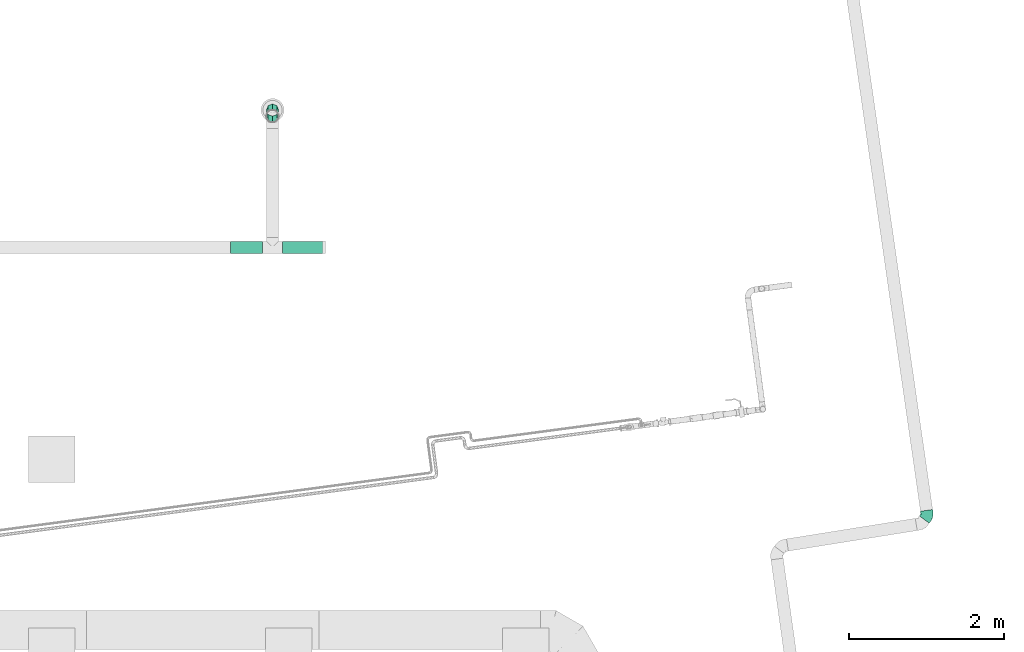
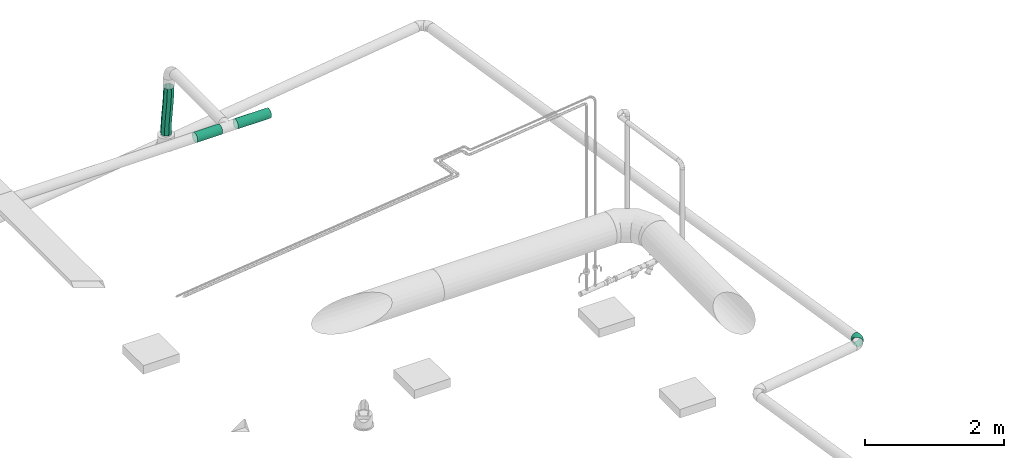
# One storey, part 335 of 374: 3 flow segments, 1 flow fitting.
"""IFC2X3 building model written with IfcOpenShell, lengths in metres."""

from ifc_helpers import new_model, si_unit, direction, origin, place, context, subcontext, project, spatial, open_shell, surface_model, source, transform, mapped, element, save


model = new_model("IFC2X3")

# Units and contexts
model_context = context("Model", 3, precision=1e-05, world=origin(), true_north=direction((-0.4480736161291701, 0.8939966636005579)))
body_context = subcontext(model_context, "Body", "Model", "MODEL_VIEW")
ifc_project = project(units=[si_unit("LENGTHUNIT", "METRE"), si_unit("AREAUNIT", "SQUARE_METRE"), si_unit("VOLUMEUNIT", "CUBIC_METRE"), si_unit("PLANEANGLEUNIT", "RADIAN"), si_unit("THERMODYNAMICTEMPERATUREUNIT", "KELVIN"), si_unit("MASSUNIT", "GRAM", prefix="KILO"), si_unit("TIMEUNIT", "SECOND")], contexts=[model_context])

# Site, building, storey
site_placement = place(None, origin())
site = spatial("IfcSite", under=ifc_project, at=site_placement, Name="Site 1", CompositionType="ELEMENT")
building_placement = place(site_placement, origin())
building = spatial("IfcBuilding", under=site, at=building_placement, Name="Undefined", CompositionType="ELEMENT")
storey_placement = place(building_placement, origin())
storey = spatial("IfcBuildingStorey", under=building, at=storey_placement, Name="Rez de chauss\x8ee", CompositionType="ELEMENT", Elevation=0.0)

# Flow fitting
shared_shape_1 = source(origin(), body_context, "Body", "SurfaceModel", [
    surface_model("IfcFaceBasedSurfaceModel", [(0.0, 0.020884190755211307, 0.0), (0.0, 0.0, 0.0), (0.03310000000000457, 8.8817842e-16, 0.0), (0.03310000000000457, 0.02088419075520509, -4.4408921e-16), (0.0, -0.020172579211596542, -0.005405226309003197), (0.03310000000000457, -0.020172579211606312, -0.005405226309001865), (0.0, -0.03825881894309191, -0.015847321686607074), (0.03309999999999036, -0.03825881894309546, -0.015847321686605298), (0.0, -0.05302617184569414, -0.0306146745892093), (0.03310000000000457, -0.05302617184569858, -0.030614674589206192), (0.0, -0.06346826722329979, -0.04870091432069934), (0.03309999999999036, -0.06346826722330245, -0.048700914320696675), (0.0, -0.06887349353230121, -0.06887349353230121), (0.03310000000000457, -0.06887349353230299, -0.06887349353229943), (0.0, -0.06887349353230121, -0.08975768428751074), (0.03310000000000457, -0.06887349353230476, -0.08975768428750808), (0.0, -0.06346826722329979, -0.10993026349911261), (0.03310000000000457, -0.06346826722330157, -0.10993026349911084), (0.0, -0.05302617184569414, -0.12801650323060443), (0.03309999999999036, -0.053026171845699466, -0.12801650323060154), (0.0, -0.038258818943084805, -0.14278385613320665), (0.03310000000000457, -0.038258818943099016, -0.1427838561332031), (0.0, -0.020172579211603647, -0.15322595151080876), (0.03309999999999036, -0.0201725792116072, -0.15322595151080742), (0.0, 7.105427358e-15, -0.15863117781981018), (0.03310000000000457, -5.329070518e-15, -0.15863117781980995), (0.0, 0.020884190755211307, -0.15863117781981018), (0.03310000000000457, 0.020884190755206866, -0.15863117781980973), (0.0, 0.04105676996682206, -0.15322595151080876), (0.03310000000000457, 0.04105676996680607, -0.15322595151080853), (0.0, 0.05914300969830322, -0.1427838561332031), (0.03310000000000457, 0.05914300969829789, -0.14278385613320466), (0.0, 0.07391036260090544, -0.12801650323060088), (0.03309999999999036, 0.07391036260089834, -0.12801650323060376), (0.0, 0.0843524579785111, -0.10993026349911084), (0.03310000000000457, 0.08435245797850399, -0.10993026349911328), (0.0, 0.08975768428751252, -0.08975768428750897), (0.03310000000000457, 0.08975768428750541, -0.08975768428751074), (0.0, 0.08975768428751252, -0.06887349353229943), (0.03309999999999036, 0.08975768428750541, -0.0688734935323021), (0.0, 0.0843524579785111, -0.048700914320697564), (0.03310000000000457, 0.08435245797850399, -0.04870091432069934), (0.0, 0.07391036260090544, -0.030614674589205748), (0.03310000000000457, 0.073910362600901, -0.030614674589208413), (0.0, 0.05914300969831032, -0.015847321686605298), (0.03309999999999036, 0.059143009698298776, -0.015847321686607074), (0.0, 0.04105676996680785, -0.005405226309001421), (0.03310000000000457, 0.041056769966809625, -0.005405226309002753), (0.07342036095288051, -0.06366215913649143, -0.09044376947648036), (0.07411920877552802, -0.06357183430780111, -0.06957147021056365), (0.11104560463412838, -0.04837649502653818, -0.0924561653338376), (0.1123965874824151, -0.048021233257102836, -0.07161874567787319), (0.14346076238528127, -0.024038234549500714, -0.09566035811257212), (0.14537357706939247, -0.023261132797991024, -0.07487847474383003), (0.07137144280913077, -0.058521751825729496, -0.11058148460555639), (0.10708472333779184, -0.04401284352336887, -0.11249161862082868), (0.13785267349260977, -0.02091135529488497, -0.11553298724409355), (0.06811208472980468, -0.04850092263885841, -0.1286122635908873), (0.10078387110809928, -0.035227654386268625, -0.13035972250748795), (0.12893149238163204, -0.014093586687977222, -0.1331420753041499), (0.0638644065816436, -0.03428257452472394, -0.14330733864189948), (0.09257244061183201, -0.02261962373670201, -0.14484279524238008), (0.11730518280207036, -0.004049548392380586, -0.14728759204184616), (0.05891788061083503, -0.01683566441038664, -0.15366526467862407), (0.0830100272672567, -0.007047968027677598, -0.15495383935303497), (0.10376605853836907, 0.008536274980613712, -0.15700554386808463), (0.0536096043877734, 0.0026508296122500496, -0.15898016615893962), (0.07274829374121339, 0.010426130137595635, -0.16000380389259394), (0.08923678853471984, 0.022806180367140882, -0.16163366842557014), (0.048301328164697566, 0.022848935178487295, -0.15888984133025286), (0.06248656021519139, 0.028611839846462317, -0.1596485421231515), (0.0747075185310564, 0.037787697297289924, -0.1608565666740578), (0.04335480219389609, 0.04238218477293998, -0.15340044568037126), (0.05292414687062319, 0.046269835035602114, -0.15391226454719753), (0.061168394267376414, 0.052459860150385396, -0.1547271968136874), (0.03910712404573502, 0.05991941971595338, -0.14288607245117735), (0.04471271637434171, 0.06219675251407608, -0.1431858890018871), (0.049542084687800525, 0.06582278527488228, -0.14366326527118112), (0.03584776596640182, 0.07426550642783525, -0.12806325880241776), (0.03841186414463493, 0.0753071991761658, -0.12820040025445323), (0.04062090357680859, 0.0769658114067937, -0.12841876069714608), (0.03379884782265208, 0.08444278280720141, -0.1099421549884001), (0.034450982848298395, 0.08470771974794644, -0.1099770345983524), (0.03501281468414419, 0.08512955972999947, -0.11003257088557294), (0.03379884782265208, 0.08984800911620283, -0.0688853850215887), (0.034450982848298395, 0.09011294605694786, -0.068920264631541), (0.03501281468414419, 0.09053478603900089, -0.06897580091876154), (0.03584776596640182, 0.0847076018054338, -0.04874766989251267), (0.03841186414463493, 0.08574929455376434, -0.04888481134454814), (0.04062090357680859, 0.08740790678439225, -0.049103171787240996), (0.03910712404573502, 0.0746867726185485, -0.030716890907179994), (0.04471271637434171, 0.0769641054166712, -0.03101670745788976), (0.049542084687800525, 0.0805901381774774, -0.03149408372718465), (0.04335480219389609, 0.06046842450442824, -0.016021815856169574), (0.05292414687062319, 0.06435607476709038, -0.01653363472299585), (0.061168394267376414, 0.07054609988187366, -0.017348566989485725), (0.048301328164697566, 0.04302151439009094, -0.005663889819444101), (0.06248656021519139, 0.048784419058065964, -0.006422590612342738), (0.0747075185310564, 0.05796027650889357, -0.007630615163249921), (0.0536096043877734, 0.02353502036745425, -0.00034898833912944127), (0.07274829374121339, 0.03131032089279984, -0.001372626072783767), (0.08923678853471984, 0.043690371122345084, -0.0030024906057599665), (0.05891788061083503, 0.003336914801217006, -0.0004393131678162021), (0.0830100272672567, 0.01312461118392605, -0.0017278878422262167), (0.10376605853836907, 0.02870885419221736, -0.003779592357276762), (0.0638644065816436, -0.016196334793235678, -0.005928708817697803), (0.09257244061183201, -0.0045333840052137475, -0.007464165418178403), (0.11730518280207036, 0.014036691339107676, -0.00990896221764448), (0.06811208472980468, -0.03373356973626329, -0.016443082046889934), (0.10078387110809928, -0.020460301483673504, -0.018190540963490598), (0.12893149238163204, 0.0006737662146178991, -0.020972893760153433), (0.07137144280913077, -0.04807965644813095, -0.0312658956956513), (0.10708472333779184, -0.033570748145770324, -0.033176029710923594), (0.13785267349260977, -0.010469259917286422, -0.036217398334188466), (0.07342036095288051, -0.058256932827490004, -0.04938699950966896), (0.11104560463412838, -0.04297126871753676, -0.0513993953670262), (0.14346076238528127, -0.018633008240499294, -0.05460358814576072), (0.1670432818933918, -0.0010103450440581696, -0.0986920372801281), (0.168956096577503, -0.00023324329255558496, -0.077910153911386), (0.1614351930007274, 0.0021165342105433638, -0.11856466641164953), (0.15251401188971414, 0.008934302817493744, -0.1361737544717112), (0.14088770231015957, 0.018978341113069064, -0.15031927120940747), (0.1273485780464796, 0.031564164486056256, -0.16003722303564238), (0.11281930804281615, 0.04583406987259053, -0.16466534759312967), (0.0982900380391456, 0.060815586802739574, -0.16388824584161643), (0.08475091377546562, 0.07548774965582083, -0.15775887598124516), (0.07312460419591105, 0.08885067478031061, -0.1466949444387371), (0.06420342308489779, 0.09999370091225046, -0.13145043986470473), (0.05859533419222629, 0.10815744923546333, -0.11306425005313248), (0.0566825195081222, 0.11278557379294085, -0.09278936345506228), (0.05859533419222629, 0.11356267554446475, -0.07200748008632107), (0.06420342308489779, 0.11043579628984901, -0.05213485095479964), (0.07312460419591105, 0.10361802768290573, -0.03452576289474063), (0.08475091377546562, 0.0935739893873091, -0.020380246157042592), (0.0982900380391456, 0.08098816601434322, -0.010662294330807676), (0.11281930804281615, 0.06671826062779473, -0.006034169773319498), (0.1273485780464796, 0.051736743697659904, -0.006811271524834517), (0.14088770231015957, 0.03706458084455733, -0.012940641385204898), (0.15251401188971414, 0.023701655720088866, -0.02400457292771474), (0.1614351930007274, 0.012558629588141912, -0.039249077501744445), (0.1670432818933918, 0.004394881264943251, -0.057635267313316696)], [open_shell([[[0, 1, 2, 3]], [[1, 4, 5, 2]], [[4, 6, 7, 5]], [[6, 8, 9, 7]], [[8, 10, 11, 9]], [[10, 12, 13, 11]], [[12, 14, 15, 13]], [[14, 16, 17, 15]], [[16, 18, 19, 17]], [[18, 20, 21, 19]], [[20, 22, 23, 21]], [[22, 24, 25, 23]], [[24, 26, 27, 25]], [[26, 28, 29, 27]], [[28, 30, 31, 29]], [[30, 32, 33, 31]], [[32, 34, 35, 33]], [[34, 36, 37, 35]], [[36, 38, 39, 37]], [[38, 40, 41, 39]], [[40, 42, 43, 41]], [[42, 44, 45, 43]], [[44, 46, 47, 45]], [[46, 0, 3, 47]], [[13, 15, 48, 49]], [[49, 48, 50, 51]], [[51, 50, 52, 53]], [[15, 17, 54, 48]], [[48, 54, 55, 50]], [[50, 55, 56, 52]], [[17, 19, 57, 54]], [[54, 57, 58, 55]], [[55, 58, 59, 56]], [[19, 21, 60, 57]], [[57, 60, 61, 58]], [[58, 61, 62, 59]], [[21, 23, 63, 60]], [[60, 63, 64, 61]], [[61, 64, 65, 62]], [[23, 25, 66, 63]], [[63, 66, 67, 64]], [[64, 67, 68, 65]], [[25, 27, 69, 66]], [[66, 69, 70, 67]], [[67, 70, 71, 68]], [[27, 29, 72, 69]], [[69, 72, 73, 70]], [[70, 73, 74, 71]], [[29, 31, 75, 72]], [[72, 75, 76, 73]], [[73, 76, 77, 74]], [[31, 33, 78, 75]], [[75, 78, 79, 76]], [[76, 79, 80, 77]], [[33, 35, 81, 78]], [[78, 81, 82, 79]], [[79, 82, 83, 80]], [[35, 37, 81]], [[81, 37, 82]], [[82, 37, 83]], [[37, 39, 84]], [[37, 84, 85]], [[37, 85, 86]], [[39, 41, 87, 84]], [[84, 87, 88, 85]], [[85, 88, 89, 86]], [[41, 43, 90, 87]], [[87, 90, 91, 88]], [[88, 91, 92, 89]], [[43, 45, 93, 90]], [[90, 93, 94, 91]], [[91, 94, 95, 92]], [[45, 47, 96, 93]], [[93, 96, 97, 94]], [[94, 97, 98, 95]], [[47, 3, 99, 96]], [[96, 99, 100, 97]], [[97, 100, 101, 98]], [[3, 2, 102, 99]], [[99, 102, 103, 100]], [[100, 103, 104, 101]], [[2, 5, 105, 102]], [[102, 105, 106, 103]], [[103, 106, 107, 104]], [[5, 7, 108, 105]], [[105, 108, 109, 106]], [[106, 109, 110, 107]], [[7, 9, 111, 108]], [[108, 111, 112, 109]], [[109, 112, 113, 110]], [[9, 11, 114, 111]], [[111, 114, 115, 112]], [[112, 115, 116, 113]], [[11, 13, 49, 114]], [[114, 49, 51, 115]], [[115, 51, 53, 116]], [[53, 52, 117, 118]], [[52, 56, 119, 117]], [[56, 59, 120, 119]], [[59, 62, 121, 120]], [[62, 65, 122, 121]], [[65, 68, 123, 122]], [[68, 71, 124, 123]], [[71, 74, 125, 124]], [[74, 77, 126, 125]], [[77, 80, 127, 126]], [[80, 83, 128, 127]], [[83, 37, 129, 128]], [[37, 86, 130, 129]], [[86, 89, 131, 130]], [[89, 92, 132, 131]], [[92, 95, 133, 132]], [[95, 98, 134, 133]], [[98, 101, 135, 134]], [[101, 104, 136, 135]], [[104, 107, 137, 136]], [[107, 110, 138, 137]], [[110, 113, 139, 138]], [[113, 116, 140, 139]], [[116, 53, 118, 140]]])]),
])
flow_fitting_placement = place(storey_placement, origin())
element("IfcFlowFitting", 1, at=flow_fitting_placement, inside=storey, Name="PE-HD coude 45°", ObjectType="PE-HD coude 45°", context=body_context, shape_type="MappedRepresentation", body=[
    mapped(shared_shape_1, transform((69.76539963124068, 19.129291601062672, -0.7163137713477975), x_axis=(0.5931064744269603, 0.8051240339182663, 0.0), y_axis=(-0.7982360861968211, 0.5880323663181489, 0.1305261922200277), z_axis=(0.10508977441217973, -0.07741592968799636, 0.9914448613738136))),
])

# Flow segments
shared_shape_2 = source(origin(), body_context, "Body", "SurfaceModel", [
    surface_model("IfcFaceBasedSurfaceModel", [(0.0, 0.020884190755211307, 0.0), (0.0, 0.0, 0.0), (0.416142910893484, 3.552713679e-15, -1.11022302e-16), (0.416142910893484, 0.020884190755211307, -1.11022302e-16), (0.0, -0.020172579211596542, -0.005405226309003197), (0.416142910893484, -0.020172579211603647, -0.00540522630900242), (0.0, -0.03825881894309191, -0.015847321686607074), (0.416142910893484, -0.03825881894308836, -0.015847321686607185), (0.0, -0.05302617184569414, -0.0306146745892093), (0.416142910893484, -0.053026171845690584, -0.03061467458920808), (0.0, -0.06346826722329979, -0.04870091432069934), (0.416142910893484, -0.06346826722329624, -0.04870091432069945), (0.0, -0.06887349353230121, -0.06887349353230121), (0.416142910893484, -0.06887349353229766, -0.06887349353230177), (0.0, -0.06887349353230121, -0.08975768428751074), (0.416142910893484, -0.06887349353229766, -0.08975768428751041), (0.0, -0.06346826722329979, -0.10993026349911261), (0.416142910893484, -0.06346826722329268, -0.10993026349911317), (0.0, -0.05302617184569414, -0.12801650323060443), (0.416142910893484, -0.05302617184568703, -0.1280165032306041), (0.0, -0.038258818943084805, -0.14278385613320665), (0.416142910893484, -0.03825881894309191, -0.1427838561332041), (0.0, -0.020172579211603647, -0.15322595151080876), (0.416142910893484, -0.020172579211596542, -0.15322595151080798), (0.0, 7.105427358e-15, -0.15863117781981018), (0.416142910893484, 7.105427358e-15, -0.15863117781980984), (0.0, 0.020884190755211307, -0.15863117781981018), (0.416142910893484, 0.02088419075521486, -0.15863117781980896), (0.0, 0.04105676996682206, -0.15322595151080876), (0.416142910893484, 0.041056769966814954, -0.15322595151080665), (0.0, 0.05914300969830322, -0.1427838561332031), (0.416142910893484, 0.05914300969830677, -0.14278385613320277), (0.0, 0.07391036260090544, -0.12801650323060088), (0.416142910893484, 0.07391036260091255, -0.12801650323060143), (0.0, 0.0843524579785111, -0.10993026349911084), (0.416142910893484, 0.08435245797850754, -0.10993026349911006), (0.0, 0.08975768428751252, -0.08975768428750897), (0.416142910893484, 0.08975768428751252, -0.0897576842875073), (0.0, 0.08975768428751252, -0.06887349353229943), (0.416142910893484, 0.08975768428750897, -0.0688734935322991), (0.0, 0.0843524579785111, -0.048700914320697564), (0.416142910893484, 0.08435245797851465, -0.04870091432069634), (0.0, 0.07391036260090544, -0.030614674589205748), (0.416142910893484, 0.07391036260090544, -0.03061467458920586), (0.0, 0.05914300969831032, -0.015847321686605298), (0.416142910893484, 0.05914300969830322, -0.015847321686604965), (0.0, 0.04105676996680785, -0.005405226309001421), (0.416142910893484, 0.041056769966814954, -0.005405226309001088)], [open_shell([[[0, 1, 2, 3]], [[1, 4, 5, 2]], [[4, 6, 7, 5]], [[6, 8, 9, 7]], [[8, 10, 11, 9]], [[10, 12, 13, 11]], [[12, 14, 15, 13]], [[14, 16, 17, 15]], [[16, 18, 19, 17]], [[18, 20, 21, 19]], [[20, 22, 23, 21]], [[22, 24, 25, 23]], [[24, 26, 27, 25]], [[26, 28, 29, 27]], [[28, 30, 31, 29]], [[30, 32, 33, 31]], [[32, 34, 35, 33]], [[34, 36, 37, 35]], [[36, 38, 39, 37]], [[38, 40, 41, 39]], [[40, 42, 43, 41]], [[42, 44, 45, 43]], [[44, 46, 47, 45]], [[46, 0, 3, 47]]])]),
])
flow_segment_1_placement = place(storey_placement, origin())
element("IfcFlowSegment", 2, at=flow_segment_1_placement, inside=storey, Name="Tube", ObjectType="Tube", context=body_context, shape_type="MappedRepresentation", body=[
    mapped(shared_shape_2, transform((60.780000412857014, 22.637169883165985, 3.877274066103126), x_axis=(1.0, 0.0, 0.0), y_axis=(0.0, 0.9914448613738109, 0.1305261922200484), z_axis=(0.0, -0.1305261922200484, 0.9914448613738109))),
])
shared_shape_3 = source(origin(), body_context, "Body", "SurfaceModel", [
    surface_model("IfcFaceBasedSurfaceModel", [(0.09425708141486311, 7.105427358e-15, -7.105427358e-15), (0.053566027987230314, 0.04575228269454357, 0.0), (0.0, 0.0, 0.0), (0.03894014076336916, -0.04725144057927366, -1.1507010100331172e-06), (-0.05541275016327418, -0.04404152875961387, 0.0010358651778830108), (-0.017993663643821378, -0.09250640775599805, 0.001061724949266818), (-0.11243305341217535, -0.08679099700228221, 0.0029113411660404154), (-0.07622095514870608, -0.1361641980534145, 0.002975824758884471), (-0.17075715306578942, -0.12862218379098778, 0.005426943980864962), (-0.13541835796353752, -0.17862410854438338, 0.005528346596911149), (-0.2300733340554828, -0.16991458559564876, 0.008379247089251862), (-0.19526249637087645, -0.2202854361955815, 0.008506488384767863), (-0.29006424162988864, -0.21105506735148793, 0.011560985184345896), (-0.255429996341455, -0.2615474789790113, 0.011697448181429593), (-0.35040834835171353, -0.2524386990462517, 0.014761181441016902), (-0.315597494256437, -0.30280953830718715, 0.014888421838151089), (-0.4107804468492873, -0.29446899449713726, 0.017765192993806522), (-0.3754416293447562, -0.3444709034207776, 0.01786659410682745), (-0.47085115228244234, -0.33755766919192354, 0.020354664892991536), (-0.4346390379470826, -0.38693085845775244, 0.02041914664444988), (-0.5302854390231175, -0.3821238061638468, 0.02230740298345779), (-0.49286635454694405, -0.43058868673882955, 0.022333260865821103), (-0.5887403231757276, -0.4285922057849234, 0.02339727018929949), (-0.5498002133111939, -0.4758436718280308, 0.023396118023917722), (-0.6458082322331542, -0.4773427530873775, 0.02339489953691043), (-0.605117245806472, -0.5230950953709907, 0.023394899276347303), (0.025061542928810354, 0.0783427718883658, -0.0432941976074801), (-0.027779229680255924, 0.033211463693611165, -0.043293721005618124), (-0.08256193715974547, -0.010327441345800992, -0.04226904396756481), (-0.1390822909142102, -0.052700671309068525, -0.040409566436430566), (-0.1970446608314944, -0.09427143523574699, -0.037909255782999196), (-0.2561421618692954, -0.13541102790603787, -0.034967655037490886), (-0.3160599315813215, -0.1765011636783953, -0.0317897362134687), (-0.37647719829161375, -0.21793515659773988, -0.028585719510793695), (-0.43706798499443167, -0.2601182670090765, -0.025571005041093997), (-0.49750041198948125, -0.303467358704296, -0.022966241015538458), (-0.5574346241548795, -0.3484097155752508, -0.02099750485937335), (-0.6165195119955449, -0.3953807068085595, -0.019896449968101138), (-0.6743126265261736, -0.4447521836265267, -0.01989929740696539), (0.025441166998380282, 0.07868040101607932, -0.10452143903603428), (-0.028124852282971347, 0.032928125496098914, -0.10452143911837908), (-0.08353759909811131, -0.011113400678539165, -0.10348557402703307), (-0.14055790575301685, -0.05386287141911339, -0.1016100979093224), (-0.1988820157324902, -0.0956940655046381, -0.09909449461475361), (-0.2581982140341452, -0.13698647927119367, -0.09614219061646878), (-0.3181891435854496, -0.17812697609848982, -0.09296045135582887), (-0.3785332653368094, -0.21951061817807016, -0.08976025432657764), (-0.438905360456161, -0.26154091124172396, -0.0867562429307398), (-0.4989760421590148, -0.3046295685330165, -0.08416677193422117), (-0.5584102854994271, -0.3491956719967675, -0.08221403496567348), (-0.6168651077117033, -0.39566402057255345, -0.08112416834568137), (-0.673932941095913, -0.4444145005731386, -0.08112653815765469), (0.054482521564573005, 0.04656739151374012, -0.14781563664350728), (-0.0008344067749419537, -0.0006840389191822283, -0.14781678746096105), (-0.057768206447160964, -0.045939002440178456, -0.1467539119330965), (-0.11599550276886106, -0.08959679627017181, -0.1448398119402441), (-0.17519292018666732, -0.13205671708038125, -0.142287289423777), (-0.23503708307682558, -0.1737180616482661, -0.139309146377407), (-0.2952046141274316, -0.21498012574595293, -0.13611818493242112), (-0.35537213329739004, -0.2562421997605, -0.13292721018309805), (-0.4152162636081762, -0.29790356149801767, -0.12994903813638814), (-0.4744136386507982, -0.3403634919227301, -0.127396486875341), (-0.5326408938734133, -0.3840212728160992, -0.1254823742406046), (-0.5895746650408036, -0.42927618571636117, -0.12441951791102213), (-0.644891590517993, -0.4765275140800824, -0.1244207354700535), (0.09517357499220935, 0.0008151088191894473, -0.14781563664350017), (0.03810573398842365, -0.04793547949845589, -0.14781793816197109), (-0.020349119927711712, -0.09440388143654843, -0.1467280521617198), (-0.07978340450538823, -0.1389699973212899, -0.14477532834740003), (-0.13985412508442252, -0.18205864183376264, -0.1421858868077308), (-0.20022624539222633, -0.22408891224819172, -0.13918190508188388), (-0.26057036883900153, -0.2654725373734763, -0.13598172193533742), (-0.3205612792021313, -0.30661303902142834, -0.13279996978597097), (-0.3798774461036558, -0.347905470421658, -0.12984763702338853), (-0.4382015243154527, -0.38973668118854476, -0.12733200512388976), (-0.4952218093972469, -0.4324861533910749, -0.1254565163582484), (-0.550634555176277, -0.47652765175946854, -0.1244206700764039), (-0.604200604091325, -0.5222798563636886, -0.12442073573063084), (0.12367806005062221, -0.03177538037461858, -0.10452143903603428), (0.06588496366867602, -0.08114694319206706, -0.10452421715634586), (0.0068000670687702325, -0.12811796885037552, -0.10342314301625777), (-0.05313416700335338, -0.1730603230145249, -0.10145442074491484), (-0.11356661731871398, -0.21640939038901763, -0.09884968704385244), (-0.17415741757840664, -0.2585924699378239, -0.09583500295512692), (-0.23457467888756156, -0.30002644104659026, -0.0926310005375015), (-0.29449242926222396, -0.3411165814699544, -0.08945306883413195), (-0.35358990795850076, -0.38225619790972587, -0.08651143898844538), (-0.4115522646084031, -0.42382699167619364, -0.08401109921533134), (-0.46807262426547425, -0.46620024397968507, -0.08215160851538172), (-0.5228553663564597, -0.5097391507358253, -0.08112694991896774), (-0.5756962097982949, -0.5548704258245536, -0.08112653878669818), (0.12329843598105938, -0.03211300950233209, -0.0432941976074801), (0.06623058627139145, -0.0808636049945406, -0.04329649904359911), (0.007775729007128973, -0.12733200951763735, -0.042206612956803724), (-0.05165855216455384, -0.17189812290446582, -0.04025388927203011), (-0.1117292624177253, -0.2149867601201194, -0.03766444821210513), (-0.17210136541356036, -0.257017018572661, -0.034660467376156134), (-0.23244546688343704, -0.29840062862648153, -0.031460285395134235), (-0.29243636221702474, -0.3395411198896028, -0.028278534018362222), (-0.35175253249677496, -0.3808335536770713, -0.025326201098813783), (-0.4100766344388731, -0.42266478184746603, -0.022810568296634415), (-0.4670969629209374, -0.4654142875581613, -0.020935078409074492), (-0.5225097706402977, -0.5094558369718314, -0.019899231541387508), (-0.5760758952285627, -0.5552081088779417, -0.01989929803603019)], [open_shell([[[0, 1, 2]], [[2, 3, 0]], [[3, 2, 4]], [[4, 5, 3]], [[5, 4, 6]], [[6, 7, 5]], [[7, 6, 8]], [[8, 9, 7]], [[9, 8, 10]], [[10, 11, 9]], [[11, 10, 12]], [[12, 13, 11]], [[13, 12, 14]], [[14, 15, 13]], [[15, 14, 16]], [[16, 17, 15]], [[17, 16, 18]], [[18, 19, 17]], [[19, 18, 20]], [[20, 21, 19]], [[21, 20, 22]], [[22, 23, 21]], [[23, 22, 24]], [[24, 25, 23]], [[1, 26, 27]], [[27, 2, 1]], [[2, 27, 28]], [[28, 4, 2]], [[4, 28, 29]], [[29, 6, 4]], [[6, 29, 30]], [[30, 8, 6]], [[8, 30, 31]], [[31, 10, 8]], [[10, 31, 32]], [[32, 12, 10]], [[12, 32, 33]], [[33, 14, 12]], [[14, 33, 34]], [[34, 16, 14]], [[16, 34, 35]], [[35, 18, 16]], [[18, 35, 36]], [[36, 20, 18]], [[20, 36, 37]], [[37, 22, 20]], [[22, 37, 38]], [[38, 24, 22]], [[26, 39, 40]], [[40, 27, 26]], [[27, 40, 41]], [[41, 28, 27]], [[28, 41, 42]], [[42, 29, 28]], [[29, 42, 43]], [[43, 30, 29]], [[30, 43, 44]], [[44, 31, 30]], [[31, 44, 45]], [[45, 32, 31]], [[32, 45, 46]], [[46, 33, 32]], [[33, 46, 47]], [[47, 34, 33]], [[34, 47, 48]], [[48, 35, 34]], [[35, 48, 49]], [[49, 36, 35]], [[36, 49, 50]], [[50, 37, 36]], [[37, 50, 51]], [[51, 38, 37]], [[39, 52, 53]], [[53, 40, 39]], [[40, 53, 54]], [[54, 41, 40]], [[41, 54, 55]], [[55, 42, 41]], [[42, 55, 56]], [[56, 43, 42]], [[43, 56, 57]], [[57, 44, 43]], [[44, 57, 58]], [[58, 45, 44]], [[45, 58, 59]], [[59, 46, 45]], [[46, 59, 60]], [[60, 47, 46]], [[47, 60, 61]], [[61, 48, 47]], [[48, 61, 62]], [[62, 49, 48]], [[49, 62, 63]], [[63, 50, 49]], [[50, 63, 64]], [[64, 51, 50]], [[52, 65, 66]], [[66, 53, 52]], [[53, 66, 67]], [[67, 54, 53]], [[54, 67, 68]], [[68, 55, 54]], [[55, 68, 69]], [[69, 56, 55]], [[56, 69, 70]], [[70, 57, 56]], [[57, 70, 71]], [[71, 58, 57]], [[58, 71, 72]], [[72, 59, 58]], [[59, 72, 73]], [[73, 60, 59]], [[60, 73, 74]], [[74, 61, 60]], [[61, 74, 75]], [[75, 62, 61]], [[62, 75, 76]], [[76, 63, 62]], [[63, 76, 77]], [[77, 64, 63]], [[65, 78, 79]], [[79, 66, 65]], [[66, 79, 80]], [[80, 67, 66]], [[67, 80, 81]], [[81, 68, 67]], [[68, 81, 82]], [[82, 69, 68]], [[69, 82, 83]], [[83, 70, 69]], [[70, 83, 84]], [[84, 71, 70]], [[71, 84, 85]], [[85, 72, 71]], [[72, 85, 86]], [[86, 73, 72]], [[73, 86, 87]], [[87, 74, 73]], [[74, 87, 88]], [[88, 75, 74]], [[75, 88, 89]], [[89, 76, 75]], [[76, 89, 90]], [[90, 77, 76]], [[78, 91, 92]], [[92, 79, 78]], [[79, 92, 93]], [[93, 80, 79]], [[80, 93, 94]], [[94, 81, 80]], [[81, 94, 95]], [[95, 82, 81]], [[82, 95, 96]], [[96, 83, 82]], [[83, 96, 97]], [[97, 84, 83]], [[84, 97, 98]], [[98, 85, 84]], [[85, 98, 99]], [[99, 86, 85]], [[86, 99, 100]], [[100, 87, 86]], [[87, 100, 101]], [[101, 88, 87]], [[88, 101, 102]], [[102, 89, 88]], [[89, 102, 103]], [[103, 90, 89]], [[91, 0, 3]], [[3, 92, 91]], [[92, 3, 5]], [[5, 93, 92]], [[93, 5, 7]], [[7, 94, 93]], [[94, 7, 9]], [[9, 95, 94]], [[95, 9, 11]], [[11, 96, 95]], [[96, 11, 13]], [[13, 97, 96]], [[97, 13, 15]], [[15, 98, 97]], [[98, 15, 17]], [[17, 99, 98]], [[99, 17, 19]], [[19, 100, 99]], [[100, 19, 21]], [[21, 101, 100]], [[101, 21, 23]], [[23, 102, 101]], [[102, 23, 25]], [[25, 103, 102]]])]),
])
flow_segment_2_placement = place(storey_placement, origin())
element("IfcFlowSegment", 3, at=flow_segment_2_placement, inside=storey, Name="Tube flexible", ObjectType="Tube flexible", context=body_context, shape_type="MappedRepresentation", body=[
    mapped(shared_shape_3, transform((61.2695747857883, 24.41136607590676, 3.4095708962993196), x_axis=(-0.24859099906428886, -0.6163532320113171, 0.7472022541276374), y_axis=(0.2910461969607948, 0.6882384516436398, 0.6645449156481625), z_axis=(-0.9238477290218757, 0.3826702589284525, 0.008297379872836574))),
])
shared_shape_4 = source(origin(), body_context, "Body", "SurfaceModel", [
    surface_model("IfcFaceBasedSurfaceModel", [(0.0, 0.020884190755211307, 0.0), (0.0, 0.0, 0.0), (0.5534758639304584, -3.552713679e-15, 2.22044605e-16), (0.5534758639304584, 0.0208841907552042, 6.66133815e-16), (0.0, -0.020172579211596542, -0.005405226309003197), (0.5534758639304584, -0.020172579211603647, -0.005405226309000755), (0.0, -0.03825881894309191, -0.015847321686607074), (0.5534758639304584, -0.03825881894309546, -0.015847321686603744), (0.0, -0.05302617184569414, -0.0306146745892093), (0.5534758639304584, -0.05302617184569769, -0.030614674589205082), (0.0, -0.06346826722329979, -0.04870091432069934), (0.5534758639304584, -0.06346826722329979, -0.048700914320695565), (0.0, -0.06887349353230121, -0.06887349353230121), (0.5534758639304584, -0.06887349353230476, -0.06887349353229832), (0.0, -0.06887349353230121, -0.08975768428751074), (0.5534758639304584, -0.06887349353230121, -0.08975768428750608), (0.0, -0.06346826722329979, -0.10993026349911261), (0.5534758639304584, -0.06346826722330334, -0.10993026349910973), (0.0, -0.05302617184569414, -0.12801650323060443), (0.5534758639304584, -0.05302617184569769, -0.1280165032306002), (0.0, -0.038258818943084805, -0.14278385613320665), (0.5534758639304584, -0.038258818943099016, -0.142783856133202), (0.0, -0.020172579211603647, -0.15322595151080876), (0.5534758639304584, -0.020172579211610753, -0.1532259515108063), (0.0, 7.105427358e-15, -0.15863117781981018), (0.5534758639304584, -7.105427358e-15, -0.15863117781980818), (0.0, 0.020884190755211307, -0.15863117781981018), (0.5534758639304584, 0.02088419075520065, -0.15863117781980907), (0.0, 0.04105676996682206, -0.15322595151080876), (0.5534758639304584, 0.04105676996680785, -0.1532259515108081), (0.0, 0.05914300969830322, -0.1427838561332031), (0.5534758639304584, 0.05914300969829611, -0.14278385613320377), (0.0, 0.07391036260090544, -0.12801650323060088), (0.5534758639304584, 0.07391036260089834, -0.12801650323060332), (0.0, 0.0843524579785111, -0.10993026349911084), (0.5534758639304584, 0.08435245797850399, -0.10993026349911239), (0.0, 0.08975768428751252, -0.08975768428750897), (0.5534758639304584, 0.08975768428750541, -0.08975768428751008), (0.0, 0.08975768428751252, -0.06887349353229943), (0.5534758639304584, 0.08975768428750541, -0.06887349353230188), (0.0, 0.0843524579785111, -0.048700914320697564), (0.5534758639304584, 0.08435245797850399, -0.048700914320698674), (0.0, 0.07391036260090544, -0.030614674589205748), (0.5534758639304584, 0.07391036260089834, -0.030614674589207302), (0.0, 0.05914300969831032, -0.015847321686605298), (0.5534758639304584, 0.05914300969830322, -0.015847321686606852), (0.0, 0.04105676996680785, -0.005405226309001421), (0.5534758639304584, 0.04105676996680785, -0.005405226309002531)], [open_shell([[[0, 1, 2, 3]], [[1, 4, 5, 2]], [[4, 6, 7, 5]], [[6, 8, 9, 7]], [[8, 10, 11, 9]], [[10, 12, 13, 11]], [[12, 14, 15, 13]], [[14, 16, 17, 15]], [[16, 18, 19, 17]], [[18, 20, 21, 19]], [[20, 22, 23, 21]], [[22, 24, 25, 23]], [[24, 26, 27, 25]], [[26, 28, 29, 27]], [[28, 30, 31, 29]], [[30, 32, 33, 31]], [[32, 34, 35, 33]], [[34, 36, 37, 35]], [[36, 38, 39, 37]], [[38, 40, 41, 39]], [[40, 42, 43, 41]], [[42, 44, 45, 43]], [[44, 46, 47, 45]], [[46, 0, 3, 47]]])]),
])
flow_segment_3_placement = place(storey_placement, origin())
element("IfcFlowSegment", 4, at=flow_segment_3_placement, inside=storey, Name="Tube", ObjectType="Tube", context=body_context, shape_type="MappedRepresentation", body=[
    mapped(shared_shape_4, transform((61.456143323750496, 22.678580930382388, 3.7227259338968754), x_axis=(1.0, 0.0, 0.0), y_axis=(0.0, -0.9914448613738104, -0.13052619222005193), z_axis=(0.0, 0.13052619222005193, -0.9914448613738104))),
])

save(model, "model.ifc")
